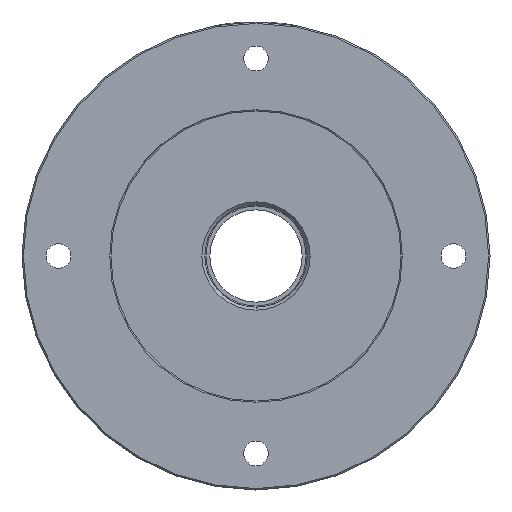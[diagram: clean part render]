
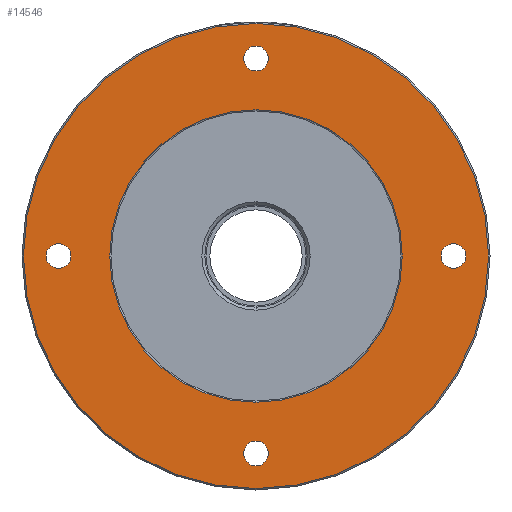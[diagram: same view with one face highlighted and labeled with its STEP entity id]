
A CAD part, left-side view. The second image highlights one B-rep face of the part: STEP entity #14546.
In plain terms, the highlighted planar face has unit normal (-1, 0, 0).
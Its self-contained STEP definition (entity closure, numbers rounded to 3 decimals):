
#269 = CARTESIAN_POINT ( 'NONE',  ( 0., -67.5, -4.25 ) ) ;
#1200 = ORIENTED_EDGE ( 'NONE', *, *, #18064, .T. ) ;
#1641 = CIRCLE ( 'NONE', #19967, 4.25 ) ;
#1666 = DIRECTION ( 'NONE',  ( 1., 0., 0. ) ) ;
#1673 = EDGE_CURVE ( 'NONE', #16854, #8441, #18984, .T. ) ;
#2402 = DIRECTION ( 'NONE',  ( 1., 0., 0. ) ) ;
#2492 = PLANE ( 'NONE',  #19526 ) ;
#2552 = EDGE_CURVE ( 'NONE', #9518, #2806, #5843, .T. ) ;
#2730 = CIRCLE ( 'NONE', #12333, 50. ) ;
#2776 = AXIS2_PLACEMENT_3D ( 'NONE', #12651, #3001, #14272 ) ;
#2790 = FACE_BOUND ( 'NONE', #12563, .T. ) ;
#2806 = VERTEX_POINT ( 'NONE', #16409 ) ;
#2864 = DIRECTION ( 'NONE',  ( 1., 0., 0. ) ) ;
#3001 = DIRECTION ( 'NONE',  ( 1., 0., 0. ) ) ;
#3070 = ORIENTED_EDGE ( 'NONE', *, *, #11022, .F. ) ;
#3137 = ORIENTED_EDGE ( 'NONE', *, *, #2552, .F. ) ;
#3391 = DIRECTION ( 'NONE',  ( -1., 0., 0. ) ) ;
#3480 = EDGE_LOOP ( 'NONE', ( #14506, #13379 ) ) ;
#3857 = EDGE_CURVE ( 'NONE', #4137, #11327, #8360, .T. ) ;
#4137 = VERTEX_POINT ( 'NONE', #6887 ) ;
#4528 = CIRCLE ( 'NONE', #10350, 4.25 ) ;
#4926 = CARTESIAN_POINT ( 'NONE',  ( 0., 0., 0. ) ) ;
#4966 = CARTESIAN_POINT ( 'NONE',  ( 0., 0., 0. ) ) ;
#5002 = VERTEX_POINT ( 'NONE', #18993 ) ;
#5485 = CARTESIAN_POINT ( 'NONE',  ( 0., 0., 71.75 ) ) ;
#5542 = VERTEX_POINT ( 'NONE', #6200 ) ;
#5784 = DIRECTION ( 'NONE',  ( -1., 0., 0. ) ) ;
#5843 = CIRCLE ( 'NONE', #9969, 50. ) ;
#6124 = DIRECTION ( 'NONE',  ( 1., 0., 0. ) ) ;
#6149 = CIRCLE ( 'NONE', #17204, 4.25 ) ;
#6200 = CARTESIAN_POINT ( 'NONE',  ( 0., 0., -71.75 ) ) ;
#6495 = DIRECTION ( 'NONE',  ( 1., 0., 0. ) ) ;
#6542 = DIRECTION ( 'NONE',  ( 0., 0., -1. ) ) ;
#6583 = DIRECTION ( 'NONE',  ( 0., 0., -1. ) ) ;
#6599 = FACE_BOUND ( 'NONE', #9160, .T. ) ;
#6764 = EDGE_CURVE ( 'NONE', #5542, #9107, #17294, .T. ) ;
#6887 = CARTESIAN_POINT ( 'NONE',  ( 0., 67.5, 4.25 ) ) ;
#7025 = CIRCLE ( 'NONE', #9096, 79.5 ) ;
#7079 = FACE_BOUND ( 'NONE', #14735, .T. ) ;
#7625 = CARTESIAN_POINT ( 'NONE',  ( 0., -67.5, 0. ) ) ;
#7800 = EDGE_CURVE ( 'NONE', #8441, #16854, #1641, .T. ) ;
#7935 = ORIENTED_EDGE ( 'NONE', *, *, #19300, .T. ) ;
#7943 = VERTEX_POINT ( 'NONE', #17670 ) ;
#7984 = ORIENTED_EDGE ( 'NONE', *, *, #6764, .T. ) ;
#8360 = CIRCLE ( 'NONE', #10952, 4.25 ) ;
#8441 = VERTEX_POINT ( 'NONE', #269 ) ;
#8447 = DIRECTION ( 'NONE',  ( 1., 0., 0. ) ) ;
#8654 = VERTEX_POINT ( 'NONE', #16072 ) ;
#8991 = CARTESIAN_POINT ( 'NONE',  ( 0., 0., 0. ) ) ;
#9096 = AXIS2_PLACEMENT_3D ( 'NONE', #4966, #16187, #6583 ) ;
#9107 = VERTEX_POINT ( 'NONE', #11462 ) ;
#9160 = EDGE_LOOP ( 'NONE', ( #3137, #3070 ) ) ;
#9236 = DIRECTION ( 'NONE',  ( 0., 0., -1. ) ) ;
#9518 = VERTEX_POINT ( 'NONE', #15000 ) ;
#9908 = CIRCLE ( 'NONE', #2776, 4.25 ) ;
#9969 = AXIS2_PLACEMENT_3D ( 'NONE', #15417, #5784, #17028 ) ;
#10350 = AXIS2_PLACEMENT_3D ( 'NONE', #16102, #6495, #17736 ) ;
#10482 = CIRCLE ( 'NONE', #12143, 4.25 ) ;
#10609 = DIRECTION ( 'NONE',  ( 0., 0., -1. ) ) ;
#10869 = FACE_OUTER_BOUND ( 'NONE', #11910, .T. ) ;
#10952 = AXIS2_PLACEMENT_3D ( 'NONE', #11345, #1666, #12955 ) ;
#10963 = EDGE_CURVE ( 'NONE', #5002, #7943, #7025, .T. ) ;
#11022 = EDGE_CURVE ( 'NONE', #2806, #9518, #2730, .T. ) ;
#11327 = VERTEX_POINT ( 'NONE', #15259 ) ;
#11345 = CARTESIAN_POINT ( 'NONE',  ( 0., 67.5, 0. ) ) ;
#11462 = CARTESIAN_POINT ( 'NONE',  ( 0., 0., -63.25 ) ) ;
#11692 = CARTESIAN_POINT ( 'NONE',  ( 0., -67.5, 4.25 ) ) ;
#11910 = EDGE_LOOP ( 'NONE', ( #18375, #1200 ) ) ;
#12064 = CARTESIAN_POINT ( 'NONE',  ( 0., 67.5, 0. ) ) ;
#12143 = AXIS2_PLACEMENT_3D ( 'NONE', #12064, #2402, #13680 ) ;
#12333 = AXIS2_PLACEMENT_3D ( 'NONE', #13034, #3391, #14654 ) ;
#12516 = CARTESIAN_POINT ( 'NONE',  ( 0., 0., 67.5 ) ) ;
#12563 = EDGE_LOOP ( 'NONE', ( #18183, #17936 ) ) ;
#12608 = EDGE_CURVE ( 'NONE', #18500, #8654, #6149, .T. ) ;
#12651 = CARTESIAN_POINT ( 'NONE',  ( 0., 0., -67.5 ) ) ;
#12793 = EDGE_CURVE ( 'NONE', #9107, #5542, #9908, .T. ) ;
#12955 = DIRECTION ( 'NONE',  ( 0., 0., -1. ) ) ;
#13034 = CARTESIAN_POINT ( 'NONE',  ( 0., 0., 0. ) ) ;
#13379 = ORIENTED_EDGE ( 'NONE', *, *, #12608, .T. ) ;
#13680 = DIRECTION ( 'NONE',  ( 0., 0., -1. ) ) ;
#14129 = DIRECTION ( 'NONE',  ( 0., 0., -1. ) ) ;
#14272 = DIRECTION ( 'NONE',  ( 0., 0., -1. ) ) ;
#14506 = ORIENTED_EDGE ( 'NONE', *, *, #16127, .T. ) ;
#14546 = ADVANCED_FACE ( 'NONE', ( #19421, #2790, #15115, #7079, #10869, #6599 ), #2492, .F. ) ;
#14654 = DIRECTION ( 'NONE',  ( 0., 0., 1. ) ) ;
#14735 = EDGE_LOOP ( 'NONE', ( #7935, #15650 ) ) ;
#14865 = EDGE_LOOP ( 'NONE', ( #7984, #20502 ) ) ;
#15000 = CARTESIAN_POINT ( 'NONE',  ( 0., 0., 50. ) ) ;
#15115 = FACE_BOUND ( 'NONE', #14865, .T. ) ;
#15259 = CARTESIAN_POINT ( 'NONE',  ( 0., 67.5, -4.25 ) ) ;
#15417 = CARTESIAN_POINT ( 'NONE',  ( 0., 0., 0. ) ) ;
#15650 = ORIENTED_EDGE ( 'NONE', *, *, #3857, .T. ) ;
#15743 = CARTESIAN_POINT ( 'NONE',  ( 0., 0., -67.5 ) ) ;
#15810 = CIRCLE ( 'NONE', #18045, 79.5 ) ;
#16072 = CARTESIAN_POINT ( 'NONE',  ( 0., 0., 63.25 ) ) ;
#16102 = CARTESIAN_POINT ( 'NONE',  ( 0., 0., 67.5 ) ) ;
#16127 = EDGE_CURVE ( 'NONE', #8654, #18500, #4528, .T. ) ;
#16144 = DIRECTION ( 'NONE',  ( -1., 0., 0. ) ) ;
#16187 = DIRECTION ( 'NONE',  ( -1., 0., 0. ) ) ;
#16409 = CARTESIAN_POINT ( 'NONE',  ( 0., 0., -50. ) ) ;
#16834 = AXIS2_PLACEMENT_3D ( 'NONE', #15743, #6124, #17356 ) ;
#16854 = VERTEX_POINT ( 'NONE', #11692 ) ;
#17028 = DIRECTION ( 'NONE',  ( 0., 0., 1. ) ) ;
#17204 = AXIS2_PLACEMENT_3D ( 'NONE', #12516, #2864, #14129 ) ;
#17294 = CIRCLE ( 'NONE', #16834, 4.25 ) ;
#17356 = DIRECTION ( 'NONE',  ( 0., 0., -1. ) ) ;
#17670 = CARTESIAN_POINT ( 'NONE',  ( 0., 0., 79.5 ) ) ;
#17736 = DIRECTION ( 'NONE',  ( 0., 0., -1. ) ) ;
#17936 = ORIENTED_EDGE ( 'NONE', *, *, #1673, .T. ) ;
#18045 = AXIS2_PLACEMENT_3D ( 'NONE', #4926, #16144, #6542 ) ;
#18063 = CARTESIAN_POINT ( 'NONE',  ( 0., -67.5, 0. ) ) ;
#18064 = EDGE_CURVE ( 'NONE', #7943, #5002, #15810, .T. ) ;
#18183 = ORIENTED_EDGE ( 'NONE', *, *, #7800, .T. ) ;
#18375 = ORIENTED_EDGE ( 'NONE', *, *, #10963, .T. ) ;
#18500 = VERTEX_POINT ( 'NONE', #5485 ) ;
#18868 = DIRECTION ( 'NONE',  ( 1., 0., 0. ) ) ;
#18984 = CIRCLE ( 'NONE', #19790, 4.25 ) ;
#18993 = CARTESIAN_POINT ( 'NONE',  ( 0., 0., -79.5 ) ) ;
#19300 = EDGE_CURVE ( 'NONE', #11327, #4137, #10482, .T. ) ;
#19421 = FACE_BOUND ( 'NONE', #3480, .T. ) ;
#19526 = AXIS2_PLACEMENT_3D ( 'NONE', #8991, #20249, #10609 ) ;
#19698 = DIRECTION ( 'NONE',  ( 0., 0., -1. ) ) ;
#19790 = AXIS2_PLACEMENT_3D ( 'NONE', #18063, #8447, #19698 ) ;
#19967 = AXIS2_PLACEMENT_3D ( 'NONE', #7625, #18868, #9236 ) ;
#20249 = DIRECTION ( 'NONE',  ( 1., 0., 0. ) ) ;
#20502 = ORIENTED_EDGE ( 'NONE', *, *, #12793, .T. ) ;
